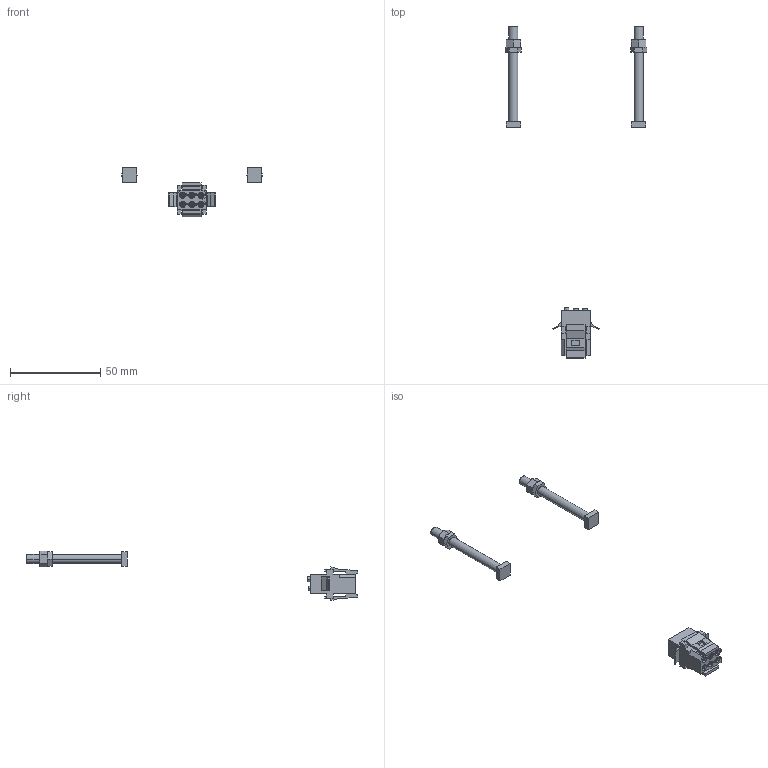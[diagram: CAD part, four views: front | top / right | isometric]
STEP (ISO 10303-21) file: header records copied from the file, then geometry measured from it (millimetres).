
FILE_DESCRIPTION(('Creo Elements/Direct Modeling STEP Export'),'2;1');
FILE_NAME('CV 4_6000_SP1 black box.stp','2013-05-27T13:17:35',(''),(''),'Creo Elements/Direct Modeling STEP processor for AP214 (Solid Model)','Creo Elements/Direct Modeling 17.0C 05-Feb-2011 (C) Parametric Technology GmbH','');
FILE_SCHEMA(('AUTOMOTIVE_DESIGN { 1 0 10303 214 1 1 1 1 }'));
Length unit declared in the file: millimetre
Products named in the file (13): contact_male_RM16M23K_pine6; contact_male_RM16M23K_pine3; contact_male_RM16M23K_pine4; contact_male_RM16M23K_pine1; contact_male_RM16M23K_pine5; SMS6R1_male_Burndy_cloison; contact_male_RM16M23K_pine2; montage_connector; Ecrou.secu_M5.2; Ecrou_M5; Vis.t.carré_M5x53; Connection; CV4-6000_SP6_blackbox
Assembly tree (15 placements, depth 3):
  CV4-6000_SP6_blackbox
    Connection
      Vis.t.carré_M5x53  x2
      Ecrou_M5  x2
      Ecrou.secu_M5.2  x2
    montage_connector
      contact_male_RM16M23K_pine2
      SMS6R1_male_Burndy_cloison
      contact_male_RM16M23K_pine5
      contact_male_RM16M23K_pine1
      contact_male_RM16M23K_pine4
      contact_male_RM16M23K_pine3
      contact_male_RM16M23K_pine6
Bounding box: 78.15 x 183.69 x 27.6 mm (x, y, z)
Volume: 6893.6 mm3; surface area: 8785.6 mm2
Topology: 13 solids, 13 shells, 623 faces, 1633 edges, 1076 vertices
Faces by surface type: plane 451, cylinder 144, cone 16, torus 12
Entity records: 20004 total; most frequent: CARTESIAN_POINT 5354, ORIENTED_EDGE 3126, DIRECTION 2696, EDGE_CURVE 1563, VECTOR 1212, LINE 1212, VERTEX_POINT 1030, AXIS2_PLACEMENT_3D 742
